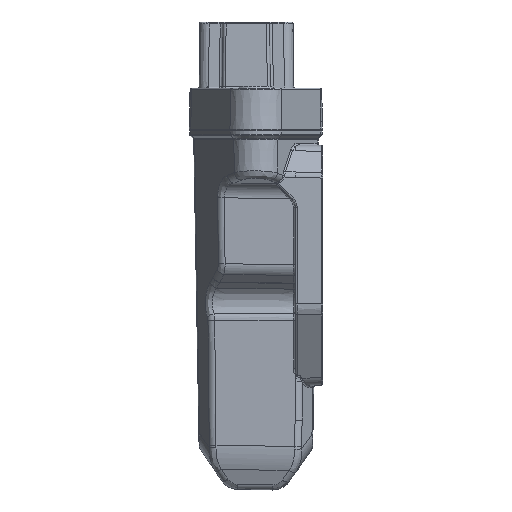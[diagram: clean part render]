
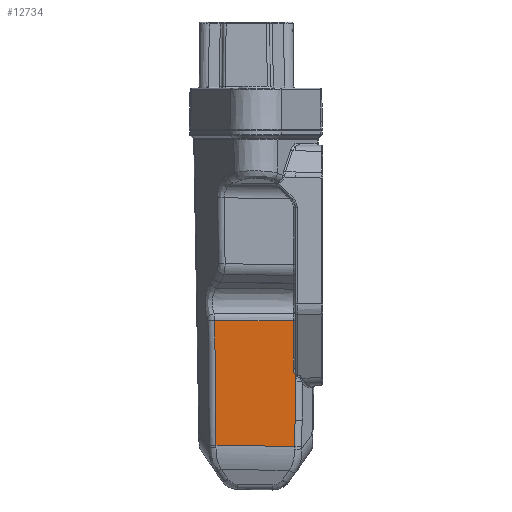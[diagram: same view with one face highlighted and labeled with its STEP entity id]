
A CAD part, left-side view. The second image highlights one B-rep face of the part: STEP entity #12734.
In plain terms, the highlighted planar face has unit normal (-1, 0.018, -0.017).
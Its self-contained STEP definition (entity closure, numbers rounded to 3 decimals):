
#655 = LINE ( 'NONE', #16582, #37189 ) ;
#1629 = VERTEX_POINT ( 'NONE', #34494 ) ;
#1903 = DIRECTION ( 'NONE',  ( 0.017, 1., 0. ) ) ;
#2677 = CARTESIAN_POINT ( 'NONE',  ( -26.514, -8.704, -64.783 ) ) ;
#2985 = CARTESIAN_POINT ( 'NONE',  ( -26.514, -8.704, -64.783 ) ) ;
#3559 = B_SPLINE_CURVE_WITH_KNOTS ( 'NONE', 3,
 ( #13108, #6320, #9699, #22657, #19683, #10322, #6738 ),
 .UNSPECIFIED., .F., .F.,
 ( 4, 3, 4 ),
 ( 0.001, 0.019, 0.021 ),
 .UNSPECIFIED. ) ;
#3780 = AXIS2_PLACEMENT_3D ( 'NONE', #28397, #41366, #1903 ) ;
#4942 = LINE ( 'NONE', #17867, #14537 ) ;
#5445 = CARTESIAN_POINT ( 'NONE',  ( -26.372, -8.491, -72.677 ) ) ;
#5738 = CARTESIAN_POINT ( 'NONE',  ( -26.193, -8.396, -82.824 ) ) ;
#5902 =( BOUNDED_CURVE ( )  B_SPLINE_CURVE ( 3, ( #16512, #29233, #23089, #29033 ),
 .UNSPECIFIED., .F., .F. ) 
 B_SPLINE_CURVE_WITH_KNOTS ( ( 4, 4 ),
 ( 3.02, 3.141 ),
 .UNSPECIFIED. ) 
 CURVE ( )  GEOMETRIC_REPRESENTATION_ITEM ( )  RATIONAL_B_SPLINE_CURVE ( ( 1., 0.999, 0.999, 1. ) ) 
 REPRESENTATION_ITEM ( '' )  );
#6153 = ORIENTED_EDGE ( 'NONE', *, *, #26317, .F. ) ;
#6320 = CARTESIAN_POINT ( 'NONE',  ( -26.501, 5.967, -50.821 ) ) ;
#6444 = CARTESIAN_POINT ( 'NONE',  ( -26.535, -8.009, -62.841 ) ) ;
#6738 = CARTESIAN_POINT ( 'NONE',  ( -26.746, -8.009, -50.765 ) ) ;
#7026 = DIRECTION ( 'NONE',  ( 0.017, 0., -1. ) ) ;
#7757 = EDGE_CURVE ( 'NONE', #17530, #31012, #38812, .T. ) ;
#8815 = ORIENTED_EDGE ( 'NONE', *, *, #7757, .F. ) ;
#9699 = CARTESIAN_POINT ( 'NONE',  ( -26.607, -0.064, -50.797 ) ) ;
#10322 = CARTESIAN_POINT ( 'NONE',  ( -26.735, -7.371, -50.768 ) ) ;
#10926 = VERTEX_POINT ( 'NONE', #24394 ) ;
#12127 = VERTEX_POINT ( 'NONE', #2677 ) ;
#12311 = ORIENTED_EDGE ( 'NONE', *, *, #31019, .F. ) ;
#12734 = ADVANCED_FACE ( 'NONE', ( #31800 ), #28604, .T. ) ;
#13108 = CARTESIAN_POINT ( 'NONE',  ( -26.395, 11.997, -50.845 ) ) ;
#14136 = VECTOR ( 'NONE', #16317, 1000. ) ;
#14537 = VECTOR ( 'NONE', #30803, 1000. ) ;
#14964 = CARTESIAN_POINT ( 'NONE',  ( -25.849, 11.667, -82.474 ) ) ;
#15168 = CARTESIAN_POINT ( 'NONE',  ( -26.396, 11.998, -50.838 ) ) ;
#15608 = LINE ( 'NONE', #5445, #24081 ) ;
#15952 = VERTEX_POINT ( 'NONE', #6444 ) ;
#16317 = DIRECTION ( 'NONE',  ( 0.017, 1., 0.017 ) ) ;
#16512 = CARTESIAN_POINT ( 'NONE',  ( -26.514, -8.704, -64.783 ) ) ;
#16582 = CARTESIAN_POINT ( 'NONE',  ( -27.624, -8.009, -0.482 ) ) ;
#16673 = ORIENTED_EDGE ( 'NONE', *, *, #24757, .F. ) ;
#17530 = VERTEX_POINT ( 'NONE', #5738 ) ;
#17867 = CARTESIAN_POINT ( 'NONE',  ( -27.645, -9.24, -0.49 ) ) ;
#18362 = DIRECTION ( 'NONE',  ( 0.017, 0., -1. ) ) ;
#18866 = EDGE_CURVE ( 'NONE', #12127, #21837, #5902, .T. ) ;
#18893 = ORIENTED_EDGE ( 'NONE', *, *, #36514, .F. ) ;
#19683 = CARTESIAN_POINT ( 'NONE',  ( -26.724, -6.733, -50.771 ) ) ;
#21162 = EDGE_CURVE ( 'NONE', #21837, #1629, #15608, .T. ) ;
#21668 = CARTESIAN_POINT ( 'NONE',  ( -26.519, -8.009, -63.771 ) ) ;
#21837 = VERTEX_POINT ( 'NONE', #23895 ) ;
#22298 = CARTESIAN_POINT ( 'NONE',  ( -26.511, -8.275, -64.513 ) ) ;
#22657 = CARTESIAN_POINT ( 'NONE',  ( -26.713, -6.095, -50.773 ) ) ;
#23089 = CARTESIAN_POINT ( 'NONE',  ( -26.508, -8.491, -64.865 ) ) ;
#23895 = CARTESIAN_POINT ( 'NONE',  ( -26.508, -8.491, -64.906 ) ) ;
#24081 = VECTOR ( 'NONE', #18362, 1000. ) ;
#24394 = CARTESIAN_POINT ( 'NONE',  ( -26.746, -8.009, -50.765 ) ) ;
#24757 = EDGE_CURVE ( 'NONE', #10926, #15952, #655, .T. ) ;
#26317 = EDGE_CURVE ( 'NONE', #39106, #10926, #3559, .T. ) ;
#28397 = CARTESIAN_POINT ( 'NONE',  ( -27.632, -8.5, -0.482 ) ) ;
#28449 = ORIENTED_EDGE ( 'NONE', *, *, #18866, .F. ) ;
#28604 = PLANE ( 'NONE',  #3780 ) ;
#29033 = CARTESIAN_POINT ( 'NONE',  ( -26.508, -8.491, -64.906 ) ) ;
#29233 = CARTESIAN_POINT ( 'NONE',  ( -26.51, -8.562, -64.824 ) ) ;
#29318 = EDGE_LOOP ( 'NONE', ( #16673, #6153, #12311, #8815, #35009, #36153, #28449, #18893 ) ) ;
#30803 = DIRECTION ( 'NONE',  ( 0.018, 0.01, -1. ) ) ;
#31012 = VERTEX_POINT ( 'NONE', #14964 ) ;
#31019 = EDGE_CURVE ( 'NONE', #31012, #39106, #31898, .T. ) ;
#31800 = FACE_OUTER_BOUND ( 'NONE', #29318, .T. ) ;
#31898 = LINE ( 'NONE', #15168, #37527 ) ;
#32169 = EDGE_CURVE ( 'NONE', #1629, #17530, #4942, .T. ) ;
#34244 = DIRECTION ( 'NONE',  ( -0.017, 0.01, 1. ) ) ;
#34494 = CARTESIAN_POINT ( 'NONE',  ( -26.357, -8.491, -73.528 ) ) ;
#35009 = ORIENTED_EDGE ( 'NONE', *, *, #32169, .F. ) ;
#35017 = CARTESIAN_POINT ( 'NONE',  ( -26.535, -8.009, -62.841 ) ) ;
#36153 = ORIENTED_EDGE ( 'NONE', *, *, #21162, .F. ) ;
#36514 = EDGE_CURVE ( 'NONE', #15952, #12127, #38843, .T. ) ;
#36919 = CARTESIAN_POINT ( 'NONE',  ( -26.395, 11.997, -50.845 ) ) ;
#37189 = VECTOR ( 'NONE', #7026, 1000. ) ;
#37527 = VECTOR ( 'NONE', #34244, 1000. ) ;
#38812 = LINE ( 'NONE', #39024, #14136 ) ;
#38843 =( BOUNDED_CURVE ( )  B_SPLINE_CURVE ( 3, ( #35017, #21668, #22298, #2985 ),
 .UNSPECIFIED., .F., .F. ) 
 B_SPLINE_CURVE_WITH_KNOTS ( ( 4, 4 ),
 ( 4.732, 5.993 ),
 .UNSPECIFIED. ) 
 CURVE ( )  GEOMETRIC_REPRESENTATION_ITEM ( )  RATIONAL_B_SPLINE_CURVE ( ( 1., 0.872, 0.872, 1. ) ) 
 REPRESENTATION_ITEM ( '' )  );
#39024 = CARTESIAN_POINT ( 'NONE',  ( -25.833, 12.616, -82.458 ) ) ;
#39106 = VERTEX_POINT ( 'NONE', #36919 ) ;
#41366 = DIRECTION ( 'NONE',  ( -1., 0.017, -0.017 ) ) ;
